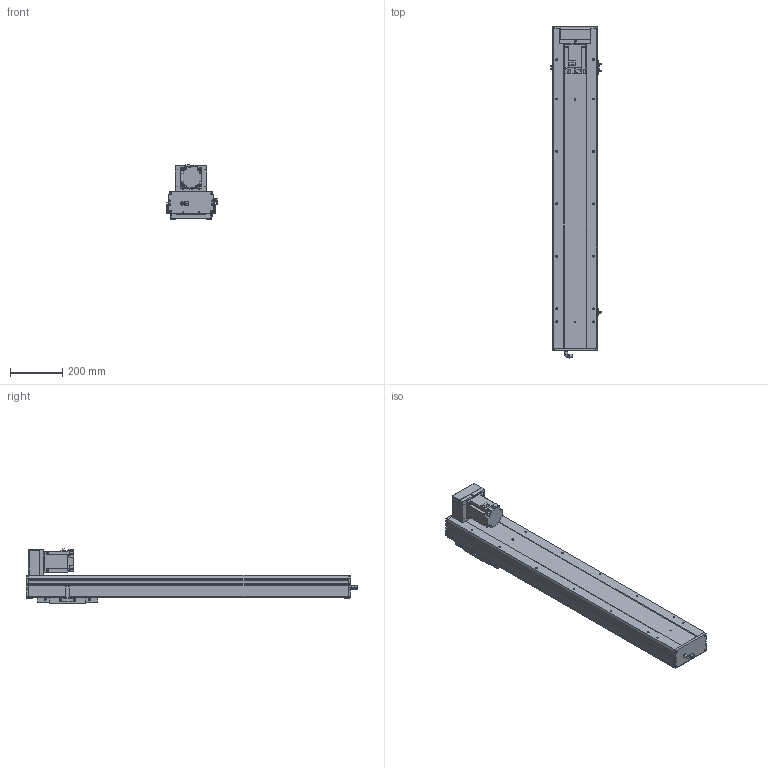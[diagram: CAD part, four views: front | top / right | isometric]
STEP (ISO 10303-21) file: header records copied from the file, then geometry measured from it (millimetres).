
FILE_DESCRIPTION (( 'STEP AP203' ), '1' );
FILE_NAME ('18.STEP', '2021-01-06T02:19:44', ( '' ), ( '' ), 'SwSTEP 2.0', 'SolidWorks 2016', '' );
FILE_SCHEMA (( 'CONFIG_CONTROL_DESIGN' ));
Length unit declared in the file: millimetre
Products named in the file (12): BCH17-BM-10; BCH17-BM-01; BCH17-BM-03; BCH17-BM-菁釱; FS-33-T75; BCH17-BM-04; BCH17-BM-HZ; BCH17-BM-11; BCH17-BM-06; 18; M75; BCH17-BM-TBZ
Assembly tree (14 placements, depth 2):
  18
    BCH17-BM-菁釱
    BCH17-BM-01
    BCH17-BM-06
    BCH17-BM-03  x2
    BCH17-BM-04  x3
    BCH17-BM-10
    BCH17-BM-HZ
    BCH17-BM-TBZ
    BCH17-BM-11
    FS-33-T75
    M75
Bounding box: 190.7 x 1265.93 x 208.07 mm (x, y, z)
Volume: 9392222.7 mm3; surface area: 1582986.6 mm2
Topology: 25 solids, 25 shells, 1931 faces, 5151 edges, 3299 vertices
Faces by surface type: plane 1146, cylinder 585, cone 110, bspline 72, sphere 16, torus 2
Entity records: 59883 total; most frequent: CARTESIAN_POINT 17392, ORIENTED_EDGE 8766, DIRECTION 8117, EDGE_CURVE 4383, LINE 2853, VECTOR 2853, VERTEX_POINT 2847, AXIS2_PLACEMENT_3D 2632
